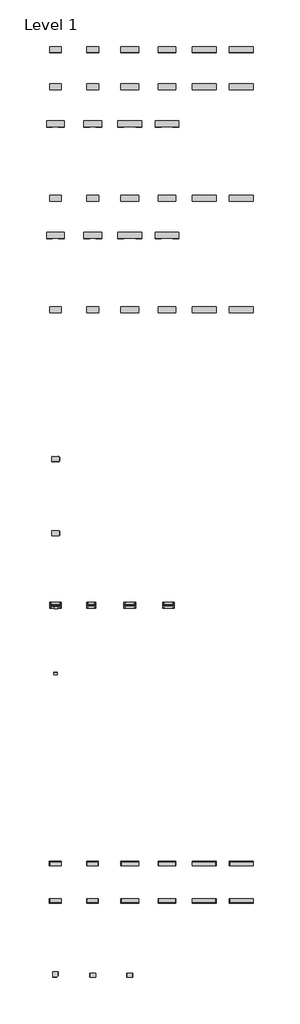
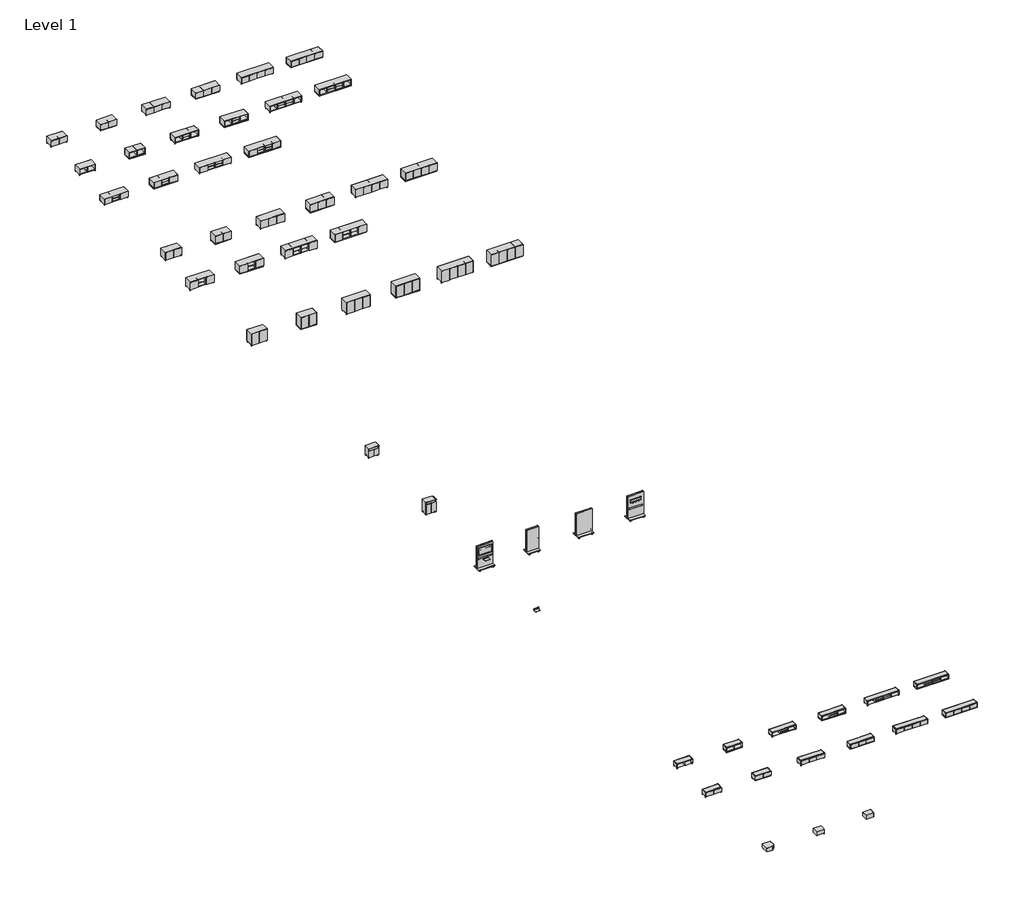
# One storey, incomplete: 55 furniture elements.
"""IFC4 building model written with IfcOpenShell, lengths in millimetres."""

from ifc_helpers import new_model, si_unit, origin, place, context, project, spatial, transform, mapped, element, save
from components import furniture_18ccb910, furniture_2f48e15f, furniture_e831200a, furniture_46024d2c, furniture_0eeaa3e6, furniture_15w_4930ab59, corner_3b95d0c9, door_48w_metal_base_4d14ca97, door_48w_metal_base_dd38ac0e, door_48w_metal_base_2e4e6eb2, door_48w_metal_base_669a1daa, door_48w_plinth_base_9e7d4544, door_48w_plinth_base_9f68a6c0, door_48w_plinth_base_2e7a5084, door_48w_plinth_base_4b53b409, door_72w_metal_base_5e867a5f, door_72w_metal_base_c97f43d6, door_72w_metal_base_77112ab6, door_72w_metal_base_94e5ba46, door_72w_plinth_base_27c9e5c9, door_72w_plinth_base_44e7c84e, door_72w_plinth_base_257990f4, door_72w_plinth_base_7b72be99, door_96w_metal_base_2c42405a, door_96w_metal_base_defe34cb, door_96w_metal_base_465cc0f3, door_96w_metal_base_4c753da5, door_96w_plinth_base_6646c0f9, door_96w_plinth_base_5fa30a09, door_96w_plinth_base_b20ff67c, door_96w_plinth_base_a0b8203d, end_of_run_6638916e, in_line_ce02a02d, open_48w_metal_base_6e8538a0, open_48w_metal_base_6d66fc51, open_48w_plinth_base_d9ffa93c, open_48w_plinth_base_3666029f, open_72w_metal_base_4dff3919, open_72w_metal_base_4fd4d835, open_72w_plinth_base_99677caf, open_72w_plinth_base_679fb57c, open_96w_metal_base_646967b4, open_96w_plinth_base_d262260d, open_96w_plinth_base_e9569392, partial_open_72w_metal_base_1c88f058, partial_open_72w_metal_base_51bc215a, partial_open_72w_plinth_base_0df8217b, partial_open_72w_plinth_base_02432125, partial_open_96w_metal_base_433a793f, partial_open_96w_metal_base_f76c5528, partial_open_96w_plinth_base_0009ec2c, partial_open_96w_plinth_base_e559e601, whiteboard_36w_4263d8d1, whiteboard_36w_019901e7, whiteboard_48w_ad37d8ad, with_media_scape_technology_7c12549f

model = new_model("IFC4")

# Units and contexts
model_context = context("Model", 3, world=origin())
ifc_project = project(units=[si_unit("LENGTHUNIT", "METRE", prefix="MILLI")], contexts=[model_context])

# Site, building, storey
site = spatial("IfcSite", under=ifc_project)
building = spatial("IfcBuilding", under=site)
storey = spatial("IfcBuildingStorey", under=building, Name="Level 1", Elevation=0.0)

# Furniture
placement = place(None, origin())
furniture_shape = furniture_18ccb910(model_context)
element("IfcFurniture", 1, ObjectType="Steelcase Coalesse - Exponents - Seating - Bench : Open - 96W -  Metal Base", at=placement, inside=storey, context=model_context, shape_type="MappedRepresentation", body=[
    mapped(furniture_shape, transform((787880.1766429, -79244.4858647, 0.0), x_axis=(1.0, 0.0, 0.0), y_axis=(0.0, 1.0, 0.0), z_axis=(0.0, 0.0, 1.0))),
])
furniture_2_shape = furniture_2f48e15f(model_context)
element("IfcFurniture", 2, ObjectType="Steelcase Coalesse - Exponents - Storage - Mobile Cart : 19 3/4D X 30W X 32H", at=placement, inside=storey, context=model_context, shape_type="MappedRepresentation", body=[
    mapped(furniture_2_shape, transform((773478.3766429, -37792.0613794, 0.0), x_axis=(1.0, 0.0, 0.0), y_axis=(0.0, 1.0, 0.0), z_axis=(0.0, 0.0, 1.0))),
])
furniture_3_shape = furniture_e831200a(model_context)
element("IfcFurniture", 3, ObjectType="Steelcase Coalesse - Exponents - Storage - Moby : 19 3/4D X 30W X 42H", at=placement, inside=storey, context=model_context, shape_type="MappedRepresentation", body=[
    mapped(furniture_3_shape, transform((773478.3766429, -45412.0613794, 0.0), x_axis=(1.0, 0.0, 0.0), y_axis=(0.0, 1.0, 0.0), z_axis=(0.0, 0.0, 1.0))),
])
furniture_4_shape = furniture_46024d2c(model_context)
furniture_5_shape = furniture_0eeaa3e6(model_context)
element("IfcFurniture", 4, ObjectType="Steelcase Coalesse - Exponents - Storage - Mobile Display Board : Mediaboard", at=placement, inside=storey, context=model_context, shape_type="MappedRepresentation", body=[
    mapped(furniture_4_shape, transform((773249.7766429, -52701.6226662, 0.0), x_axis=(1.0, 0.0, 0.0), y_axis=(0.0, 1.0, 0.0), z_axis=(0.0, 0.0, 1.0))),
    mapped(furniture_5_shape, transform((773249.7766429, -52701.6226662, 0.0), x_axis=(1.0, 0.0, 0.0), y_axis=(0.0, 1.0, 0.0), z_axis=(0.0, 0.0, 1.0))),
])
furniture_15w_shape = furniture_15w_4930ab59(model_context)
element("IfcFurniture", 5, ObjectType="Steelcase Coalesse - Exponents - Storage - Mobile Display Board - Shelf : 15W", at=placement, inside=storey, context=model_context, shape_type="MappedRepresentation", body=[
    mapped(furniture_15w_shape, transform((773249.5568353, -59859.8506662, 0.0), x_axis=(1.0, 0.0, 0.0), y_axis=(0.0, 1.0, 0.0), z_axis=(0.0, 0.0, 1.0))),
])
element("IfcFurniture", 6, ObjectType="Steelcase Coalesse - Exponents - Storage - Mobile Display Board - Shelf : 15W", at=placement, inside=storey, context=model_context, shape_type="MappedRepresentation", body=[
    mapped(furniture_15w_shape, transform((773304.2718458, -53063.7250847, 0.0), x_axis=(1.0, 0.0, 0.0), y_axis=(0.0, 1.0, 0.0), z_axis=(0.0, 0.0, 1.0))),
])
corner_shape = corner_3b95d0c9(model_context)
element("IfcFurniture", 7, ObjectType="Steelcase Coalesse - Exponents - Seating - Bench Bridge : Corner", at=placement, inside=storey, context=model_context, shape_type="MappedRepresentation", body=[
    mapped(corner_shape, transform((773555.3703929, -90674.4858647, 0.0), x_axis=(1.0, 0.0, 0.0), y_axis=(0.0, 1.0, 0.0), z_axis=(0.0, 0.0, 1.0))),
])
door_48w_metal_base_shape = door_48w_metal_base_4d14ca97(model_context)
element("IfcFurniture", 8, ObjectType="Steelcase Coalesse - Exponents - Storage - Credenza - 21H : Door - 48W - Metal Base", at=placement, inside=storey, context=model_context, shape_type="MappedRepresentation", body=[
    mapped(door_48w_metal_base_shape, transform((773249.7766429, 4118.3141353, 0.0), x_axis=(1.0, 0.0, 0.0), y_axis=(0.0, 1.0, 0.0), z_axis=(0.0, 0.0, 1.0))),
])
door_48w_metal_base_2_shape = door_48w_metal_base_dd38ac0e(model_context)
element("IfcFurniture", 9, ObjectType="Steelcase Coalesse - Exponents - Storage - Credenza - 27H : Door - 48W - Metal Base", at=placement, inside=storey, context=model_context, shape_type="MappedRepresentation", body=[
    mapped(door_48w_metal_base_2_shape, transform((773249.7766429, -11121.6858647, 0.0), x_axis=(1.0, 0.0, 0.0), y_axis=(0.0, 1.0, 0.0), z_axis=(0.0, 0.0, 1.0))),
])
door_48w_metal_base_3_shape = door_48w_metal_base_2e4e6eb2(model_context)
element("IfcFurniture", 10, ObjectType="Steelcase Coalesse - Exponents - Storage - Credenza - 39H : Door - 48W - Metal Base", at=placement, inside=storey, context=model_context, shape_type="MappedRepresentation", body=[
    mapped(door_48w_metal_base_3_shape, transform((773249.7766429, -22551.6858647, 0.0), x_axis=(1.0, 0.0, 0.0), y_axis=(0.0, 1.0, 0.0), z_axis=(0.0, 0.0, 1.0))),
])
door_48w_metal_base_4_shape = door_48w_metal_base_669a1daa(model_context)
element("IfcFurniture", 11, ObjectType="Steelcase Coalesse - Exponents - Seating - Bench : Door - 48W - Metal Base", at=placement, inside=storey, context=model_context, shape_type="MappedRepresentation", body=[
    mapped(door_48w_metal_base_4_shape, transform((773235.2268017, -83054.4858647, 0.0), x_axis=(1.0, 0.0, 0.0), y_axis=(0.0, 1.0, 0.0), z_axis=(0.0, 0.0, 1.0))),
])
door_48w_plinth_base_shape = door_48w_plinth_base_9e7d4544(model_context)
element("IfcFurniture", 12, ObjectType="Steelcase Coalesse - Exponents - Storage - Credenza - 21H : Door - 48W - Plinth Base", at=placement, inside=storey, context=model_context, shape_type="MappedRepresentation", body=[
    mapped(door_48w_plinth_base_shape, transform((777059.7766429, 4118.3141353, 0.0), x_axis=(1.0, 0.0, 0.0), y_axis=(0.0, 1.0, 0.0), z_axis=(0.0, 0.0, 1.0))),
])
door_48w_plinth_base_2_shape = door_48w_plinth_base_9f68a6c0(model_context)
element("IfcFurniture", 13, ObjectType="Steelcase Coalesse - Exponents - Storage - Credenza - 27H : Door - 48W - Plinth Base", at=placement, inside=storey, context=model_context, shape_type="MappedRepresentation", body=[
    mapped(door_48w_plinth_base_2_shape, transform((777059.7766429, -11121.6858647, 0.0), x_axis=(1.0, 0.0, 0.0), y_axis=(0.0, 1.0, 0.0), z_axis=(0.0, 0.0, 1.0))),
])
door_48w_plinth_base_3_shape = door_48w_plinth_base_2e7a5084(model_context)
element("IfcFurniture", 14, ObjectType="Steelcase Coalesse - Exponents - Storage - Credenza - 39H : Door - 48W - Plinth Base", at=placement, inside=storey, context=model_context, shape_type="MappedRepresentation", body=[
    mapped(door_48w_plinth_base_3_shape, transform((777059.7766429, -22551.6858647, 0.0), x_axis=(1.0, 0.0, 0.0), y_axis=(0.0, 1.0, 0.0), z_axis=(0.0, 0.0, 1.0))),
])
door_48w_plinth_base_4_shape = door_48w_plinth_base_4b53b409(model_context)
element("IfcFurniture", 15, ObjectType="Steelcase Coalesse - Exponents - Seating - Bench : Door - 48W - Plinth Base", at=placement, inside=storey, context=model_context, shape_type="MappedRepresentation", body=[
    mapped(door_48w_plinth_base_4_shape, transform((777045.2268017, -83054.4858647, 0.0), x_axis=(1.0, 0.0, 0.0), y_axis=(0.0, 1.0, 0.0), z_axis=(0.0, 0.0, 1.0))),
])
door_72w_metal_base_shape = door_72w_metal_base_5e867a5f(model_context)
element("IfcFurniture", 16, ObjectType="Steelcase Coalesse - Exponents - Storage - Credenza - 21H : Door - 72W - Metal Base", at=placement, inside=storey, context=model_context, shape_type="MappedRepresentation", body=[
    mapped(door_72w_metal_base_shape, transform((780564.9766429, 4118.3141353, 0.0), x_axis=(1.0, 0.0, 0.0), y_axis=(0.0, 1.0, 0.0), z_axis=(0.0, 0.0, 1.0))),
])
door_72w_metal_base_2_shape = door_72w_metal_base_c97f43d6(model_context)
element("IfcFurniture", 17, ObjectType="Steelcase Coalesse - Exponents - Storage - Credenza - 27H : Door - 72W - Metal Base", at=placement, inside=storey, context=model_context, shape_type="MappedRepresentation", body=[
    mapped(door_72w_metal_base_2_shape, transform((780564.9766429, -11121.6858647, 0.0), x_axis=(1.0, 0.0, 0.0), y_axis=(0.0, 1.0, 0.0), z_axis=(0.0, 0.0, 1.0))),
])
door_72w_metal_base_3_shape = door_72w_metal_base_77112ab6(model_context)
element("IfcFurniture", 18, ObjectType="Steelcase Coalesse - Exponents - Storage - Credenza - 39H : Door - 72W - Metal Base", at=placement, inside=storey, context=model_context, shape_type="MappedRepresentation", body=[
    mapped(door_72w_metal_base_3_shape, transform((780564.9766429, -22551.6858647, 0.0), x_axis=(1.0, 0.0, 0.0), y_axis=(0.0, 1.0, 0.0), z_axis=(0.0, 0.0, 1.0))),
])
door_72w_metal_base_4_shape = door_72w_metal_base_94e5ba46(model_context)
element("IfcFurniture", 19, ObjectType="Steelcase Coalesse - Exponents - Seating - Bench : Door - 72W - Metal Base", at=placement, inside=storey, context=model_context, shape_type="MappedRepresentation", body=[
    mapped(door_72w_metal_base_4_shape, transform((780564.9766429, -83054.4858647, 0.0), x_axis=(1.0, 0.0, 0.0), y_axis=(0.0, 1.0, 0.0), z_axis=(0.0, 0.0, 1.0))),
])
door_72w_plinth_base_shape = door_72w_plinth_base_27c9e5c9(model_context)
element("IfcFurniture", 20, ObjectType="Steelcase Coalesse - Exponents - Storage - Credenza - 21H : Door - 72W - Plinth Base", at=placement, inside=storey, context=model_context, shape_type="MappedRepresentation", body=[
    mapped(door_72w_plinth_base_shape, transform((784374.9766429, 4118.3141353, 0.0), x_axis=(1.0, 0.0, 0.0), y_axis=(0.0, 1.0, 0.0), z_axis=(0.0, 0.0, 1.0))),
])
door_72w_plinth_base_2_shape = door_72w_plinth_base_44e7c84e(model_context)
element("IfcFurniture", 21, ObjectType="Steelcase Coalesse - Exponents - Storage - Credenza - 27H : Door - 72W - Plinth Base", at=placement, inside=storey, context=model_context, shape_type="MappedRepresentation", body=[
    mapped(door_72w_plinth_base_2_shape, transform((784374.9766429, -11121.6858647, 0.0), x_axis=(1.0, 0.0, 0.0), y_axis=(0.0, 1.0, 0.0), z_axis=(0.0, 0.0, 1.0))),
])
door_72w_plinth_base_3_shape = door_72w_plinth_base_257990f4(model_context)
element("IfcFurniture", 22, ObjectType="Steelcase Coalesse - Exponents - Storage - Credenza - 39H : Door - 72W - Plinth Base", at=placement, inside=storey, context=model_context, shape_type="MappedRepresentation", body=[
    mapped(door_72w_plinth_base_3_shape, transform((784374.9766429, -22551.6858647, 0.0), x_axis=(1.0, 0.0, 0.0), y_axis=(0.0, 1.0, 0.0), z_axis=(0.0, 0.0, 1.0))),
])
door_72w_plinth_base_4_shape = door_72w_plinth_base_7b72be99(model_context)
element("IfcFurniture", 23, ObjectType="Steelcase Coalesse - Exponents - Seating - Bench : Door - 72W - Plinth Base", at=placement, inside=storey, context=model_context, shape_type="MappedRepresentation", body=[
    mapped(door_72w_plinth_base_4_shape, transform((784374.9766429, -83054.4858647, 0.0), x_axis=(1.0, 0.0, 0.0), y_axis=(0.0, 1.0, 0.0), z_axis=(0.0, 0.0, 1.0))),
])
door_96w_metal_base_shape = door_96w_metal_base_2c42405a(model_context)
element("IfcFurniture", 24, ObjectType="Steelcase Coalesse - Exponents - Storage - Credenza - 21H : Door - 96W - Metal Base", at=placement, inside=storey, context=model_context, shape_type="MappedRepresentation", body=[
    mapped(door_96w_metal_base_shape, transform((787880.1766429, 4118.3141353, 0.0), x_axis=(1.0, 0.0, 0.0), y_axis=(0.0, 1.0, 0.0), z_axis=(0.0, 0.0, 1.0))),
])
door_96w_metal_base_2_shape = door_96w_metal_base_defe34cb(model_context)
element("IfcFurniture", 25, ObjectType="Steelcase Coalesse - Exponents - Storage - Credenza - 27H : Door - 96W - Metal Base", at=placement, inside=storey, context=model_context, shape_type="MappedRepresentation", body=[
    mapped(door_96w_metal_base_2_shape, transform((787880.1766429, -11121.6858647, 0.0), x_axis=(1.0, 0.0, 0.0), y_axis=(0.0, 1.0, 0.0), z_axis=(0.0, 0.0, 1.0))),
])
door_96w_metal_base_3_shape = door_96w_metal_base_465cc0f3(model_context)
element("IfcFurniture", 26, ObjectType="Steelcase Coalesse - Exponents - Storage - Credenza - 39H : Door - 96W - Metal Base", at=placement, inside=storey, context=model_context, shape_type="MappedRepresentation", body=[
    mapped(door_96w_metal_base_3_shape, transform((787880.1766429, -22551.6858647, 0.0), x_axis=(1.0, 0.0, 0.0), y_axis=(0.0, 1.0, 0.0), z_axis=(0.0, 0.0, 1.0))),
])
door_96w_metal_base_4_shape = door_96w_metal_base_4c753da5(model_context)
element("IfcFurniture", 27, ObjectType="Steelcase Coalesse - Exponents - Seating - Bench : Door - 96W - Metal Base", at=placement, inside=storey, context=model_context, shape_type="MappedRepresentation", body=[
    mapped(door_96w_metal_base_4_shape, transform((787880.1766429, -83054.4858647, 0.0), x_axis=(1.0, 0.0, 0.0), y_axis=(0.0, 1.0, 0.0), z_axis=(0.0, 0.0, 1.0))),
])
door_96w_plinth_base_shape = door_96w_plinth_base_6646c0f9(model_context)
element("IfcFurniture", 28, ObjectType="Steelcase Coalesse - Exponents - Storage - Credenza - 21H : Door - 96W - Plinth Base", at=placement, inside=storey, context=model_context, shape_type="MappedRepresentation", body=[
    mapped(door_96w_plinth_base_shape, transform((791690.1766429, 4118.3141353, 0.0), x_axis=(1.0, 0.0, 0.0), y_axis=(0.0, 1.0, 0.0), z_axis=(0.0, 0.0, 1.0))),
])
door_96w_plinth_base_2_shape = door_96w_plinth_base_5fa30a09(model_context)
element("IfcFurniture", 29, ObjectType="Steelcase Coalesse - Exponents - Storage - Credenza - 27H : Door - 96W - Plinth Base", at=placement, inside=storey, context=model_context, shape_type="MappedRepresentation", body=[
    mapped(door_96w_plinth_base_2_shape, transform((791690.1766429, -11121.6858647, 0.0), x_axis=(1.0, 0.0, 0.0), y_axis=(0.0, 1.0, 0.0), z_axis=(0.0, 0.0, 1.0))),
])
door_96w_plinth_base_3_shape = door_96w_plinth_base_b20ff67c(model_context)
element("IfcFurniture", 30, ObjectType="Steelcase Coalesse - Exponents - Storage - Credenza - 39H : Door - 96W - Plinth Base", at=placement, inside=storey, context=model_context, shape_type="MappedRepresentation", body=[
    mapped(door_96w_plinth_base_3_shape, transform((791690.1766429, -22551.6858647, 0.0), x_axis=(1.0, 0.0, 0.0), y_axis=(0.0, 1.0, 0.0), z_axis=(0.0, 0.0, 1.0))),
])
door_96w_plinth_base_4_shape = door_96w_plinth_base_a0b8203d(model_context)
element("IfcFurniture", 31, ObjectType="Steelcase Coalesse - Exponents - Seating - Bench : Door - 96W - Plinth Base", at=placement, inside=storey, context=model_context, shape_type="MappedRepresentation", body=[
    mapped(door_96w_plinth_base_4_shape, transform((791690.1766429, -83054.4858647, 0.0), x_axis=(1.0, 0.0, 0.0), y_axis=(0.0, 1.0, 0.0), z_axis=(0.0, 0.0, 1.0))),
])
end_of_run_shape = end_of_run_6638916e(model_context)
element("IfcFurniture", 32, ObjectType="Steelcase Coalesse - Exponents - Seating - Bench Bridge : End - Of - Run", at=placement, inside=storey, context=model_context, shape_type="MappedRepresentation", body=[
    mapped(end_of_run_shape, transform((777365.3703929, -90837.9983647, 0.0), x_axis=(1.0, 0.0, 0.0), y_axis=(0.0, 1.0, 0.0), z_axis=(0.0, 0.0, 1.0))),
])
in_line_shape = in_line_ce02a02d(model_context)
element("IfcFurniture", 33, ObjectType="Steelcase Coalesse - Exponents - Seating - Bench Bridge : In - Line", at=placement, inside=storey, context=model_context, shape_type="MappedRepresentation", body=[
    mapped(in_line_shape, transform((781175.3703929, -90837.9983647, 0.0), x_axis=(1.0, 0.0, 0.0), y_axis=(0.0, 1.0, 0.0), z_axis=(0.0, 0.0, 1.0))),
])
open_48w_metal_base_shape = open_48w_metal_base_6e8538a0(model_context)
element("IfcFurniture", 34, ObjectType="Steelcase Coalesse - Exponents - Storage - Credenza - 21H : Open - 48W - Metal Base", at=placement, inside=storey, context=model_context, shape_type="MappedRepresentation", body=[
    mapped(open_48w_metal_base_shape, transform((773249.7766429, 308.3141353, 0.0), x_axis=(1.0, 0.0, 0.0), y_axis=(0.0, 1.0, 0.0), z_axis=(0.0, 0.0, 1.0))),
])
open_48w_metal_base_2_shape = open_48w_metal_base_6d66fc51(model_context)
element("IfcFurniture", 35, ObjectType="Steelcase Coalesse - Exponents - Seating - Bench : Open - 48W - Metal Base", at=placement, inside=storey, context=model_context, shape_type="MappedRepresentation", body=[
    mapped(open_48w_metal_base_2_shape, transform((773235.2268017, -79244.4858647, 0.0), x_axis=(1.0, 0.0, 0.0), y_axis=(0.0, 1.0, 0.0), z_axis=(0.0, 0.0, 1.0))),
])
open_48w_plinth_base_shape = open_48w_plinth_base_d9ffa93c(model_context)
element("IfcFurniture", 36, ObjectType="Steelcase Coalesse - Exponents - Storage - Credenza - 21H : Open - 48W - Plinth Base", at=placement, inside=storey, context=model_context, shape_type="MappedRepresentation", body=[
    mapped(open_48w_plinth_base_shape, transform((777059.7766429, 308.3141353, 0.0), x_axis=(1.0, 0.0, 0.0), y_axis=(0.0, 1.0, 0.0), z_axis=(0.0, 0.0, 1.0))),
])
open_48w_plinth_base_2_shape = open_48w_plinth_base_3666029f(model_context)
element("IfcFurniture", 37, ObjectType="Steelcase Coalesse - Exponents - Seating - Bench : Open - 48W - Plinth Base", at=placement, inside=storey, context=model_context, shape_type="MappedRepresentation", body=[
    mapped(open_48w_plinth_base_2_shape, transform((777045.2268017, -79244.4858647, 0.0), x_axis=(1.0, 0.0, 0.0), y_axis=(0.0, 1.0, 0.0), z_axis=(0.0, 0.0, 1.0))),
])
open_72w_metal_base_shape = open_72w_metal_base_4dff3919(model_context)
element("IfcFurniture", 38, ObjectType="Steelcase Coalesse - Exponents - Storage - Credenza - 21H : Open - 72W - Metal Base", at=placement, inside=storey, context=model_context, shape_type="MappedRepresentation", body=[
    mapped(open_72w_metal_base_shape, transform((780564.9766429, 308.3141353, 0.0), x_axis=(1.0, 0.0, 0.0), y_axis=(0.0, 1.0, 0.0), z_axis=(0.0, 0.0, 1.0))),
])
open_72w_metal_base_2_shape = open_72w_metal_base_4fd4d835(model_context)
element("IfcFurniture", 39, ObjectType="Steelcase Coalesse - Exponents - Seating - Bench : Open - 72W - Metal Base", at=placement, inside=storey, context=model_context, shape_type="MappedRepresentation", body=[
    mapped(open_72w_metal_base_2_shape, transform((780564.9766429, -79244.4858647, 0.0), x_axis=(1.0, 0.0, 0.0), y_axis=(0.0, 1.0, 0.0), z_axis=(0.0, 0.0, 1.0))),
])
open_72w_plinth_base_shape = open_72w_plinth_base_99677caf(model_context)
element("IfcFurniture", 40, ObjectType="Steelcase Coalesse - Exponents - Storage - Credenza - 21H : Open - 72W - Plinth Base", at=placement, inside=storey, context=model_context, shape_type="MappedRepresentation", body=[
    mapped(open_72w_plinth_base_shape, transform((784374.9766429, 308.3141353, 0.0), x_axis=(1.0, 0.0, 0.0), y_axis=(0.0, 1.0, 0.0), z_axis=(0.0, 0.0, 1.0))),
])
open_72w_plinth_base_2_shape = open_72w_plinth_base_679fb57c(model_context)
element("IfcFurniture", 41, ObjectType="Steelcase Coalesse - Exponents - Seating - Bench : Open - 72W - Plinth Base", at=placement, inside=storey, context=model_context, shape_type="MappedRepresentation", body=[
    mapped(open_72w_plinth_base_2_shape, transform((784374.9766429, -79244.4858647, 0.0), x_axis=(1.0, 0.0, 0.0), y_axis=(0.0, 1.0, 0.0), z_axis=(0.0, 0.0, 1.0))),
])
open_96w_metal_base_shape = open_96w_metal_base_646967b4(model_context)
element("IfcFurniture", 42, ObjectType="Steelcase Coalesse - Exponents - Storage - Credenza - 21H : Open - 96W - Metal Base", at=placement, inside=storey, context=model_context, shape_type="MappedRepresentation", body=[
    mapped(open_96w_metal_base_shape, transform((787880.1766429, 308.3141353, 0.0), x_axis=(1.0, 0.0, 0.0), y_axis=(0.0, 1.0, 0.0), z_axis=(0.0, 0.0, 1.0))),
])
open_96w_plinth_base_shape = open_96w_plinth_base_d262260d(model_context)
element("IfcFurniture", 43, ObjectType="Steelcase Coalesse - Exponents - Storage - Credenza - 21H : Open - 96W - Plinth Base", at=placement, inside=storey, context=model_context, shape_type="MappedRepresentation", body=[
    mapped(open_96w_plinth_base_shape, transform((791690.1766429, 308.3141353, 0.0), x_axis=(1.0, 0.0, 0.0), y_axis=(0.0, 1.0, 0.0), z_axis=(0.0, 0.0, 1.0))),
])
open_96w_plinth_base_2_shape = open_96w_plinth_base_e9569392(model_context)
element("IfcFurniture", 44, ObjectType="Steelcase Coalesse - Exponents - Seating - Bench : Open - 96W - Plinth Base", at=placement, inside=storey, context=model_context, shape_type="MappedRepresentation", body=[
    mapped(open_96w_plinth_base_2_shape, transform((791690.1766429, -79244.4858647, 0.0), x_axis=(1.0, 0.0, 0.0), y_axis=(0.0, 1.0, 0.0), z_axis=(0.0, 0.0, 1.0))),
])
partial_open_72w_metal_base_shape = partial_open_72w_metal_base_1c88f058(model_context)
element("IfcFurniture", 45, ObjectType="Steelcase Coalesse - Exponents - Storage - Credenza - 21H : Partial Open - 72W - Metal Base", at=placement, inside=storey, context=model_context, shape_type="MappedRepresentation", body=[
    mapped(partial_open_72w_metal_base_shape, transform((772944.9766429, -3501.6858647, 0.0), x_axis=(1.0, 0.0, 0.0), y_axis=(0.0, 1.0, 0.0), z_axis=(0.0, 0.0, 1.0))),
])
partial_open_72w_metal_base_2_shape = partial_open_72w_metal_base_51bc215a(model_context)
element("IfcFurniture", 46, ObjectType="Steelcase Coalesse - Exponents - Storage - Credenza - 27H : Partial Open - 72W - Metal Base", at=placement, inside=storey, context=model_context, shape_type="MappedRepresentation", body=[
    mapped(partial_open_72w_metal_base_2_shape, transform((772944.9766429, -14931.6858647, 0.0), x_axis=(1.0, 0.0, 0.0), y_axis=(0.0, 1.0, 0.0), z_axis=(0.0, 0.0, 1.0))),
])
partial_open_72w_plinth_base_shape = partial_open_72w_plinth_base_0df8217b(model_context)
element("IfcFurniture", 47, ObjectType="Steelcase Coalesse - Exponents - Storage - Credenza - 21H : Partial Open - 72W - Plinth Base", at=placement, inside=storey, context=model_context, shape_type="MappedRepresentation", body=[
    mapped(partial_open_72w_plinth_base_shape, transform((776754.9766429, -3501.6858647, 0.0), x_axis=(1.0, 0.0, 0.0), y_axis=(0.0, 1.0, 0.0), z_axis=(0.0, 0.0, 1.0))),
])
partial_open_72w_plinth_base_2_shape = partial_open_72w_plinth_base_02432125(model_context)
element("IfcFurniture", 48, ObjectType="Steelcase Coalesse - Exponents - Storage - Credenza - 27H : Partial Open - 72W - Plinth Base", at=placement, inside=storey, context=model_context, shape_type="MappedRepresentation", body=[
    mapped(partial_open_72w_plinth_base_2_shape, transform((776754.9766429, -14931.6858647, 0.0), x_axis=(1.0, 0.0, 0.0), y_axis=(0.0, 1.0, 0.0), z_axis=(0.0, 0.0, 1.0))),
])
partial_open_96w_metal_base_shape = partial_open_96w_metal_base_433a793f(model_context)
element("IfcFurniture", 49, ObjectType="Steelcase Coalesse - Exponents - Storage - Credenza - 21H : Partial Open - 96W - Metal Base", at=placement, inside=storey, context=model_context, shape_type="MappedRepresentation", body=[
    mapped(partial_open_96w_metal_base_shape, transform((780260.1766429, -3501.6858647, 0.0), x_axis=(1.0, 0.0, 0.0), y_axis=(0.0, 1.0, 0.0), z_axis=(0.0, 0.0, 1.0))),
])
partial_open_96w_metal_base_2_shape = partial_open_96w_metal_base_f76c5528(model_context)
element("IfcFurniture", 50, ObjectType="Steelcase Coalesse - Exponents - Storage - Credenza - 27H : Partial Open - 96W - Metal Base", at=placement, inside=storey, context=model_context, shape_type="MappedRepresentation", body=[
    mapped(partial_open_96w_metal_base_2_shape, transform((780260.1766429, -14931.6858647, 0.0), x_axis=(1.0, 0.0, 0.0), y_axis=(0.0, 1.0, 0.0), z_axis=(0.0, 0.0, 1.0))),
])
partial_open_96w_plinth_base_shape = partial_open_96w_plinth_base_0009ec2c(model_context)
element("IfcFurniture", 51, ObjectType="Steelcase Coalesse - Exponents - Storage - Credenza - 21H : Partial Open - 96W - Plinth Base", at=placement, inside=storey, context=model_context, shape_type="MappedRepresentation", body=[
    mapped(partial_open_96w_plinth_base_shape, transform((784070.1766429, -3501.6858647, 0.0), x_axis=(1.0, 0.0, 0.0), y_axis=(0.0, 1.0, 0.0), z_axis=(0.0, 0.0, 1.0))),
])
partial_open_96w_plinth_base_2_shape = partial_open_96w_plinth_base_e559e601(model_context)
element("IfcFurniture", 52, ObjectType="Steelcase Coalesse - Exponents - Storage - Credenza - 27H : Partial Open - 96W - Plinth Base", at=placement, inside=storey, context=model_context, shape_type="MappedRepresentation", body=[
    mapped(partial_open_96w_plinth_base_2_shape, transform((784070.1766429, -14931.6858647, 0.0), x_axis=(1.0, 0.0, 0.0), y_axis=(0.0, 1.0, 0.0), z_axis=(0.0, 0.0, 1.0))),
])
whiteboard_36w_shape = whiteboard_36w_4263d8d1(model_context)
whiteboard_36w_2_shape = whiteboard_36w_019901e7(model_context)
element("IfcFurniture", 53, ObjectType="Steelcase Coalesse - Exponents - Storage - Mobile Display Board : Whiteboard - 36W", at=placement, inside=storey, context=model_context, shape_type="MappedRepresentation", body=[
    mapped(whiteboard_36w_shape, transform((777059.7766429, -52701.6226662, 0.0), x_axis=(1.0, 0.0, 0.0), y_axis=(0.0, 1.0, 0.0), z_axis=(0.0, 0.0, 1.0))),
    mapped(whiteboard_36w_2_shape, transform((777059.7766429, -52701.6226662, 0.0), x_axis=(1.0, 0.0, 0.0), y_axis=(0.0, 1.0, 0.0), z_axis=(0.0, 0.0, 1.0))),
])
whiteboard_48w_shape = whiteboard_48w_ad37d8ad(model_context)
element("IfcFurniture", 54, ObjectType="Steelcase Coalesse - Exponents - Storage - Mobile Display Board : Whiteboard - 48W", at=placement, inside=storey, context=model_context, shape_type="MappedRepresentation", body=[
    mapped(whiteboard_48w_shape, transform((780869.7766429, -52701.6226662, 0.0), x_axis=(1.0, 0.0, 0.0), y_axis=(0.0, 1.0, 0.0), z_axis=(0.0, 0.0, 1.0))),
    mapped(furniture_5_shape, transform((780869.7766429, -52701.6226662, 0.0), x_axis=(1.0, 0.0, 0.0), y_axis=(0.0, 1.0, 0.0), z_axis=(0.0, 0.0, 1.0))),
])
with_media_scape_technology_shape = with_media_scape_technology_7c12549f(model_context)
element("IfcFurniture", 55, ObjectType="Steelcase Coalesse - Exponents - Storage - Mobile Display Board : With Media Scape Technology", at=placement, inside=storey, context=model_context, shape_type="MappedRepresentation", body=[
    mapped(with_media_scape_technology_shape, transform((784832.1766429, -52701.6226662, 0.0), x_axis=(1.0, 0.0, 0.0), y_axis=(0.0, 1.0, 0.0), z_axis=(0.0, 0.0, 1.0))),
    mapped(furniture_5_shape, transform((784832.1766429, -52701.6226662, 0.0), x_axis=(1.0, 0.0, 0.0), y_axis=(0.0, 1.0, 0.0), z_axis=(0.0, 0.0, 1.0))),
])

save(model, "model.ifc")
